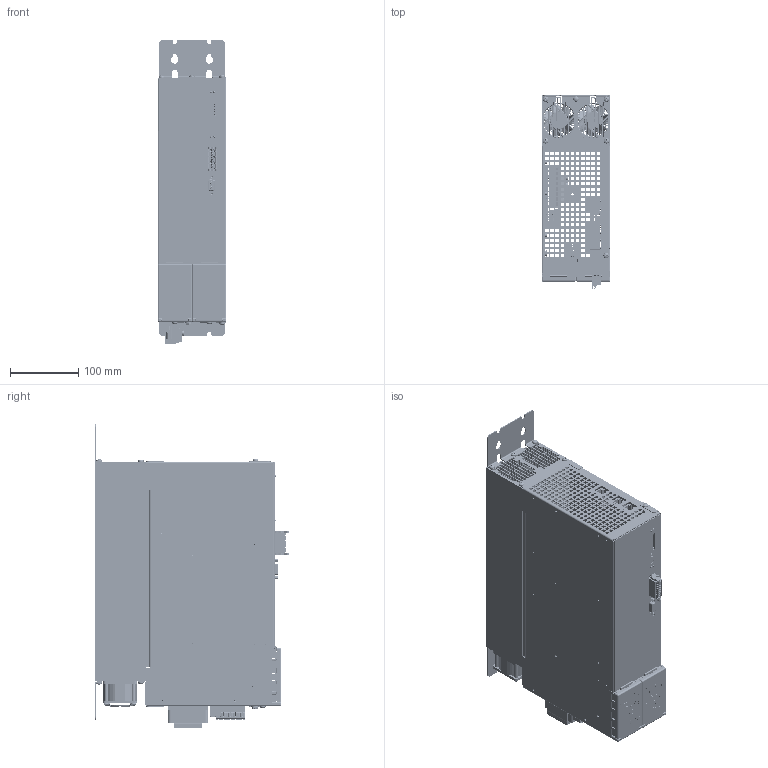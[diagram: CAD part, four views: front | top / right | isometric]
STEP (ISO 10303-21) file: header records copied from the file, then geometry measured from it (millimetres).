
FILE_DESCRIPTION(/* description */ (''),/* implementation_level */ '2;1');
FILE_NAME(/* name */ 'R:\Arch_Inventor\Baugruppen\BasicDevice\PSD1MW1800\PSD1MW1800-DD0-R031\Export Dateien\PSD1MW1800-DD0-R031.stp',/* time_stamp */ '2018-02-28T13:48:14+01:00',/* author */ ('tm111735'),/* organization */ ('Parker Hannifin - EME'),/* preprocessor_version */ 'ST-DEVELOPER v16.5',/* originating_system */ 'Autodesk Inventor 2017',/* authorisation */ '');
FILE_SCHEMA (('AUTOMOTIVE_DESIGN { 1 0 10303 214 3 1 1 }'));
Products named in the file (85): PSD1MW1800-DD0-R020b; MCP-0002-01-DD0-R010; Rippe zu KUE12N01; MCH-0005-01; MCH-0005-01_1; Einpress-Gewindebuchse SO-M4-6; Einpressmutter M5; Einpress-Gewindebuchse SO-3,5M3-10; Einpress-Gewindebuchse SO-3,5M3-8; Einpressmutter M4; X48; X43_3; X62; X62_1; X62_2; X44_2; MCH-0004-01; 2xGEH15_komplett2; GEH15; Muster-7748; Gewindeeinsatz DIN16903 U-M4; Schiene_B_9mm_lang; 7761; GET15_02+Druck UL-2; 7749_2; UL_DANGER; UL_Warning; UL_Warning_1; !_Zeichen 10mm ; UL_Warning_2; UL_Warning_3; UL_CAUTION; UL_CAUTION_1; Blitz_Zeichen 10mm ; UL_Warning_4; UL_Warning_5; Parker_27mm; 7764; LAB-0007-01; LAB-0007-01-DD0-R010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
Assembly tree (166 placements, depth 4):
  PSD1MW1800-DD0-R020b
    MCP-0002-01-DD0-R010
    Rippe zu KUE12N01  x6
    MCH-0005-01
      MCH-0005-01_1
      Einpress-Gewindebuchse SO-M4-6
      Einpressmutter M4  x3
      Einpressmutter M5
      Einpress-Gewindebuchse SO-3,5M3-10  x2
      Einpress-Gewindebuchse SO-3,5M3-8  x12
      X48
      X43_3
      X62
      X62_1
      X62_2
      X44_2
    MCH-0004-01  x2
    2xGEH15_komplett2
      GEH15  x2
        Muster-7748
        Gewindeeinsatz DIN16903 U-M4
      Schiene_B_9mm_lang  x5
      7761  x5
      Li-Schraube DIN 7985 M4x10  x10
      GET15_02+Druck UL-2  x2
        7749_2
        UL_DANGER
        UL_Warning
        UL_Warning_1
        !_Zeichen 10mm 
        UL_Warning_2
        UL_Warning_3
        UL_CAUTION
        UL_CAUTION_1
        Blitz_Zeichen 10mm 
        UL_Warning_4
        UL_Warning_5
        Parker_27mm
      7764
    LAB-0007-01
      LAB-0007-01-DD0-R010
      FRF14_01a
        FRF14_01a_1
        Parker_16mm
      FRF13_01b
    PAP-0006-00.pcb
      pc_6-4-gf-10.16
      mc_1,5-4-g-3,81
    Li-Schraube DIN 7985 M4x10  x10
    PAC-0001-05-R010.pcb
      DC-Schalter_10x10x7  x2
      LED DUO 3MM-4pol  x2
      CONN_2X11_SMT_CLT-111-02-L-D  x4
      RJ45_LED_Jack  x3
      D_SUB 15 HD right angle female_2
      dmc_1.5-8-g1f-3.5-Nullpunkt
        Nullpunkt_xy
        dmc_1.5-8-g1f-3.5
      SD card 5009980900
        SD card 5009980900_1
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Bounding box: 100.02 x 284.2 x 443.9 mm (x, y, z)
Volume: 1594737 mm3; surface area: 1580099.2 mm2
Topology: 872 solids, 872 shells, 28035 faces, 74868 edges, 49181 vertices
Faces by surface type: plane 16183, cylinder 5663, bspline 4756, cone 901, torus 449, sphere 83
Full cylindrical faces by diameter (mm): 0.457 x7, 0.5 x8, 0.562 x2, 0.6 x10, 0.7 x20, 0.8 x2, 1 x15, 1.2 x8, 1.25 x16, 1.45 x12, 1.6 x60, 2.156 x2, 2.3 x2, 2.4 x4, 2.459 x27, 2.487 x2, 2.5 x6, 2.6 x4, 2.693 x8, 2.729 x1, 2.8 x2, 2.92 x2, 3 x51, 3.2 x8, 3.242 x50, 3.35 x4, 3.4 x4, 3.621 x24, 3.8 x18, 4 x44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
Entity records: 615792 total; most frequent: CARTESIAN_POINT 142284, ORIENTED_EDGE 101092, DIRECTION 85761, EDGE_CURVE 50546, LINE 36633, VECTOR 36633, VERTEX_POINT 33533, AXIS2_PLACEMENT_3D 24564
